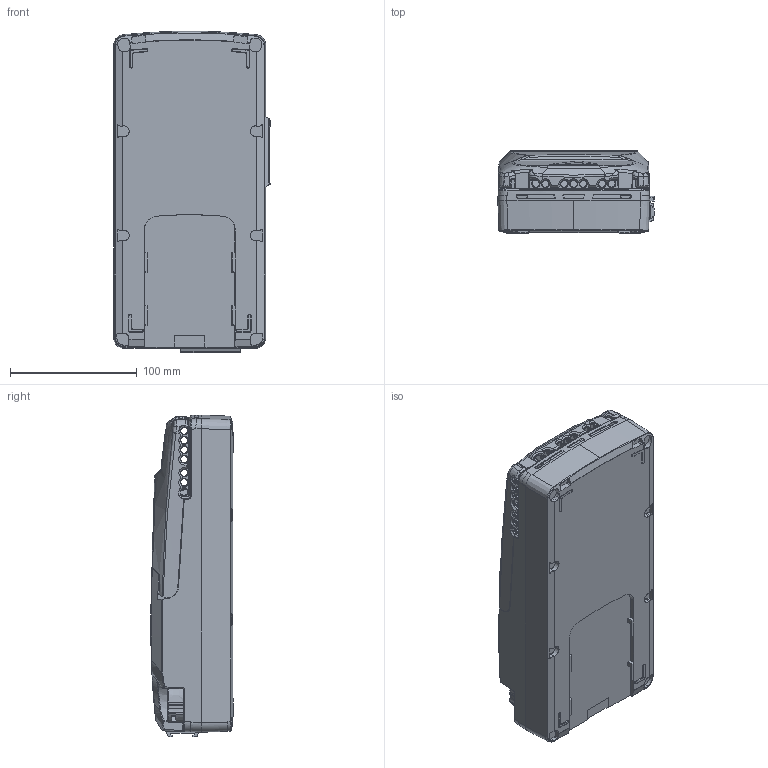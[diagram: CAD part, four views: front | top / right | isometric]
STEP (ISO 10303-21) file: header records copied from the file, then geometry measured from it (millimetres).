
FILE_DESCRIPTION (( 'STEP AP203' ), '1' );
FILE_NAME ('kontrol kutusu pararr stpc sss stp.STEP', '2024-11-01T11:53:40', ( '' ), ( '' ), 'SwSTEP 2.0', 'SolidWorks 2023', '' );
FILE_SCHEMA (( 'CONFIG_CONTROL_DESIGN' ));
Products named in the file (1): kontrol kutusu pararr stpc sss stp
Bounding box: 123.55 x 65.3 x 254.2 mm (x, y, z)
Volume: 1451409.4 mm3; surface area: 153050.5 mm2
Topology: 1 solids, 1 shells, 1963 faces, 5307 edges, 3360 vertices
Faces by surface type: bspline 569, plane 529, cylinder 451, cone 190, torus 185, sphere 39
Entity records: 118694 total; most frequent: CARTESIAN_POINT 76588, ORIENTED_EDGE 10594, DIRECTION 6188, EDGE_CURVE 5297, VERTEX_POINT 3357, B_SPLINE_CURVE_WITH_KNOTS 2618, AXIS2_PLACEMENT_3D 2252, EDGE_LOOP 1996
